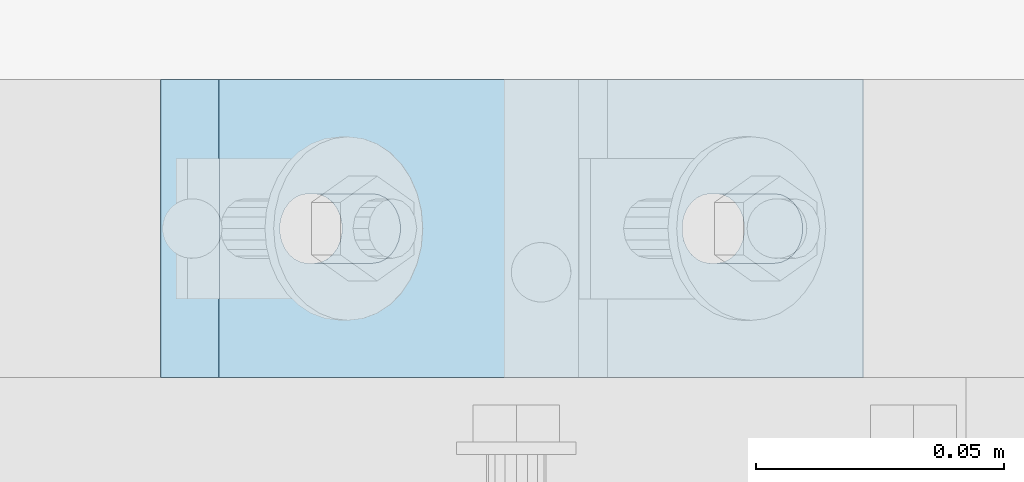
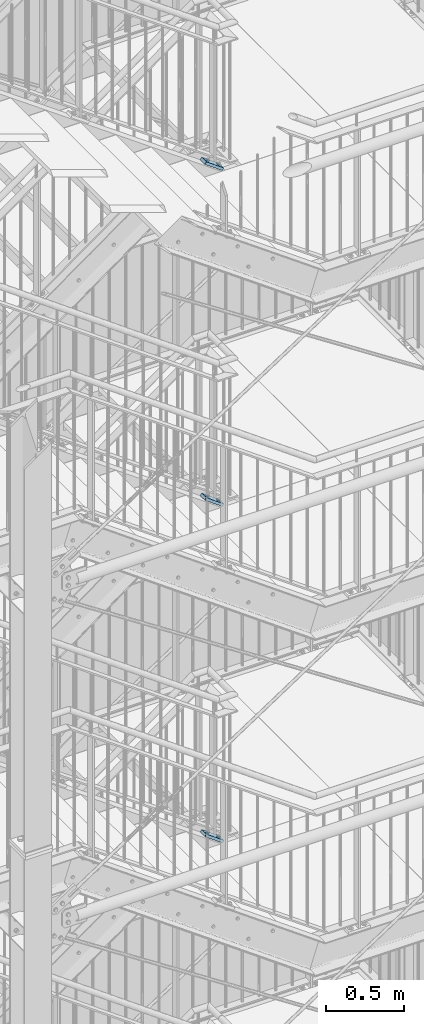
# One storey, part 179 of 831: 3 plates, 6 openings.
"""IFC2X3 building model written with IfcOpenShell, lengths in millimetres."""

import ifcopenshell
import ifcopenshell.guid

model = None  # the IFC model being written
_history = None  # IfcOwnerHistory: only IFC2X3 demands one
_inside = {}  # id of a spatial element -> (the spatial element, [elements in it])
_under = {}  # id of a project, library or spatial element -> (it, [spatial elements below it])
_declared = {}  # id of a project -> (the project, [libraries it declares])
_typed = {}  # id of a type object -> (the type object, [elements of that type])
_made_of = {}  # id of a material, layer set ... -> (it, [elements and type objects made of it])


def new_model(schema):
    """Start an empty IFC model of exactly this schema.

    Asked for "IFC4X3", IfcOpenShell would pick the latest addendum, in which some entities
    have other attributes; the version numbers below select the first issue.
    IFC2X3 requires an IfcOwnerHistory on every rooted entity: one is made here for all.
    """
    global model, _history
    if schema == "IFC4X3":
        model = ifcopenshell.file(schema_version=(4, 3, 0, 0))
    else:
        model = ifcopenshell.file(schema=schema)
    _inside.clear()
    _under.clear()
    _declared.clear()
    _typed.clear()
    _made_of.clear()
    _history = None
    if model.schema == "IFC2X3":
        org = make("IfcOrganization", Name="unknown")
        user = make(
            "IfcPersonAndOrganization",
            ThePerson=make("IfcPerson", FamilyName="unknown"),
            TheOrganization=org,
        )
        app = make(
            "IfcApplication",
            ApplicationDeveloper=org,
            Version="unknown",
            ApplicationFullName="unknown",
            ApplicationIdentifier="unknown",
        )
        _history = make(
            "IfcOwnerHistory",
            OwningUser=user,
            OwningApplication=app,
            ChangeAction="ADDED",
            CreationDate=0,
        )
    return model


def make(cls, **values):
    """One entity of the class cls with the attributes given. An attribute that is None is left unset."""
    return model.create_entity(
        cls, **{name: value for name, value in values.items() if value is not None}
    )


def entity(cls, *values):
    """Any entity or typed value of the class cls, its attributes in the order of the schema. None: left unset."""
    e = model.create_entity(cls)
    for i, value in enumerate(values):
        if value is not None:
            e[i] = value
    return e


def rooted(cls, **values):
    """An entity with a GlobalId (a new one), such as an element, a storey or a relation."""
    return make(cls, GlobalId=ifcopenshell.guid.new(), OwnerHistory=_history, **values)


def si_unit(unit_type, name, prefix=None):
    """IfcSIUnit, for example si_unit("LENGTHUNIT", "METRE", prefix="MILLI")."""
    return make("IfcSIUnit", UnitType=unit_type, Prefix=prefix, Name=name)


def converted_unit(unit_type, name, factor, base, dimensions=None, offset=None):
    """IfcConversionBasedUnit, such as the inch: factor (a typed value) times the base unit."""
    return make(
        "IfcConversionBasedUnit"
        if offset is None
        else "IfcConversionBasedUnitWithOffset",
        ConversionOffset=offset,
        Dimensions=None
        if dimensions is None
        else entity("IfcDimensionalExponents", *dimensions),
        UnitType=unit_type,
        Name=name,
        ConversionFactor=make(
            "IfcMeasureWithUnit", ValueComponent=factor, UnitComponent=base
        ),
    )


def assignment(units):
    """IfcUnitAssignment: the units of a project."""
    return None if units is None else make("IfcUnitAssignment", Units=units)


def point(xyz):
    """IfcCartesianPoint."""
    return None if xyz is None else make("IfcCartesianPoint", Coordinates=xyz)


def direction(xyz):
    """IfcDirection."""
    return None if xyz is None else make("IfcDirection", DirectionRatios=xyz)


def frame(location, z_axis=None, x_axis=None):
    """IfcAxis2Placement3D, a coordinate frame: its origin and axes. An axis left out is left unset."""
    return make(
        "IfcAxis2Placement3D",
        Location=point(location),
        Axis=direction(z_axis),
        RefDirection=direction(x_axis),
    )


def frame_2d(location, x_axis=None):
    """IfcAxis2Placement2D, a coordinate frame in the plane: its origin and x axis."""
    return make(
        "IfcAxis2Placement2D", Location=point(location), RefDirection=direction(x_axis)
    )


def origin():
    """The frame at (0, 0, 0) with its axes left unset."""
    return frame((0.0, 0.0, 0.0))


def origin_with_axes():
    """The frame at (0, 0, 0) with the z axis (0, 0, 1) and the x axis (1, 0, 0) written out."""
    return frame((0.0, 0.0, 0.0), z_axis=(0.0, 0.0, 1.0), x_axis=(1.0, 0.0, 0.0))


def place(relative_to, where):
    """IfcLocalPlacement: puts the frame where relative to a parent placement (None: the world)."""
    return make(
        "IfcLocalPlacement", PlacementRelTo=relative_to, RelativePlacement=where
    )


def context(
    kind, dimensions, precision=None, world=None, true_north=None, identifier=None
):
    """IfcGeometricRepresentationContext, for example the 3D "Model" context."""
    return make(
        "IfcGeometricRepresentationContext",
        ContextIdentifier=identifier,
        ContextType=kind,
        CoordinateSpaceDimension=dimensions,
        Precision=precision,
        WorldCoordinateSystem=world,
        TrueNorth=true_north,
    )


def project(units=None, contexts=None):
    """IfcProject with its units and contexts."""
    return rooted(
        "IfcProject",
        Name="project",
        RepresentationContexts=contexts,
        UnitsInContext=assignment(units),
    )


def spatial(cls, under=None, at=None, **own):
    """A site, building, storey or space (cls), placed at a placement, below another one or the project."""
    s = rooted(cls, ObjectPlacement=at, **own)
    if under is not None:
        _under.setdefault(under.id(), (under, []))[1].append(s)
    return s


def polyline(points):
    """IfcPolyline through the points."""
    return make("IfcPolyline", Points=[point(p) for p in points])


def circle_curve(where, radius):
    """IfcCircle in the frame where."""
    return make("IfcCircle", Position=where, Radius=radius)


def line_curve(start, along, magnitude):
    """IfcLine from a point along a vector."""
    return make(
        "IfcLine",
        Pnt=point(start),
        Dir=make("IfcVector", Orientation=direction(along), Magnitude=magnitude),
    )


def trimmed(basis, trim1, trim2, sense, master):
    """IfcTrimmedCurve: the piece of a basis curve between two trims."""
    return make(
        "IfcTrimmedCurve",
        BasisCurve=basis,
        Trim1=trim1,
        Trim2=trim2,
        SenseAgreement=sense,
        MasterRepresentation=master,
    )


def segment(curve, same_sense, transition):
    """IfcCompositeCurveSegment."""
    return make(
        "IfcCompositeCurveSegment",
        Transition=transition,
        SameSense=same_sense,
        ParentCurve=curve,
    )


def composite_curve(segments, self_intersect=None):
    """IfcCompositeCurve: segments joined end to end."""
    return make("IfcCompositeCurve", Segments=segments, SelfIntersect=self_intersect)


def outline(outer, holes=None, kind="AREA"):
    """IfcArbitraryClosedProfileDef: a profile drawn as a closed curve; with holes, ...WithVoids."""
    if holes is None:
        return make("IfcArbitraryClosedProfileDef", ProfileType=kind, OuterCurve=outer)
    return make(
        "IfcArbitraryProfileDefWithVoids",
        ProfileType=kind,
        OuterCurve=outer,
        InnerCurves=holes,
    )


def extrude(swept, where, along, depth):
    """IfcExtrudedAreaSolid: the profile swept, set in the frame where, extruded along a direction by depth."""
    return make(
        "IfcExtrudedAreaSolid",
        SweptArea=swept,
        Position=where,
        ExtrudedDirection=direction(along),
        Depth=depth,
    )


def shape(context_of_items, identifier, shape_type, items):
    """IfcShapeRepresentation: the items that make up one representation, for example the "Body"."""
    return make(
        "IfcShapeRepresentation",
        ContextOfItems=context_of_items,
        RepresentationIdentifier=identifier,
        RepresentationType=shape_type,
        Items=items,
    )


def material(Name=None, Category=None):
    """IfcMaterial."""
    return make("IfcMaterial", Name=Name, Category=Category)


def layer(
    of_material, thickness, ventilated=None, Name=None, Category=None, Priority=None
):
    """IfcMaterialLayer: one layer of a wall or slab, of a material (None: an air gap)."""
    return make(
        "IfcMaterialLayer",
        Material=of_material,
        LayerThickness=thickness,
        IsVentilated=ventilated,
        Name=Name,
        Category=Category,
        Priority=Priority,
    )


def layer_set(layers, Name=None):
    """IfcMaterialLayerSet."""
    return make("IfcMaterialLayerSet", MaterialLayers=layers, LayerSetName=Name)


def made_of(thing, what):
    """Note that an element or type object is made of a material, layer set ...; save() writes the relation."""
    if what is not None:
        _made_of.setdefault(what.id(), (what, []))[1].append(thing)
    return thing


def element(
    cls,
    number,
    at=None,
    inside=None,
    cuts=None,
    type_object=None,
    material=None,
    context=None,
    identifier="Body",
    shape_type=None,
    held_by="IfcProductDefinitionShape",
    body=None,
    shapes=None,
    **own,
):
    """One element of the class cls, such as IfcWall. Its Tag is "e" and its number.

    at: its placement. inside: the storey or other place that contains it. cuts: it is an
    opening in that element (IfcRelVoidsElement). A single representation is given by context,
    identifier, shape_type and body (its items); several are given by shapes. held_by: the class
    of the entity that holds the representations. save() writes the other relations.
    """
    e = rooted(cls, Tag="e%d" % number, ObjectPlacement=at, **own)
    if body is not None:
        shapes = [shape(context, identifier, shape_type, body)]
    if shapes is not None:
        e.Representation = make(held_by, Representations=shapes)
    if inside is not None:
        _inside.setdefault(inside.id(), (inside, []))[1].append(e)
    if cuts is not None:
        rooted(
            "IfcRelVoidsElement", RelatingBuildingElement=cuts, RelatedOpeningElement=e
        )
    if type_object is not None:
        _typed.setdefault(type_object.id(), (type_object, []))[1].append(e)
    return made_of(e, material)


def aggregate(whole, parts):
    """IfcRelAggregates: a whole, such as a stair, and the parts it consists of."""
    return rooted("IfcRelAggregates", RelatingObject=whole, RelatedObjects=parts)


def save(model, path):
    """Write the relations noted so far, then the file.

    IfcRelAggregates (storeys below a building ...), IfcRelContainedInSpatialStructure (elements
    in a storey), IfcRelDefinesByType, IfcRelAssociatesMaterial and IfcRelDeclares: one each for
    every whole, place, type object, material and project.
    """
    for whole, parts in _under.values():
        aggregate(whole, parts)
    for where, things in _inside.values():
        rooted(
            "IfcRelContainedInSpatialStructure",
            RelatedElements=things,
            RelatingStructure=where,
        )
    for kind, things in _typed.values():
        rooted("IfcRelDefinesByType", RelatedObjects=things, RelatingType=kind)
    for what, things in _made_of.values():
        rooted("IfcRelAssociatesMaterial", RelatedObjects=things, RelatingMaterial=what)
    for by, libraries in _declared.values():
        rooted("IfcRelDeclares", RelatingContext=by, RelatedDefinitions=libraries)
    model.write(path)


model = new_model("IFC2X3")

# Units and contexts
model_context = context("Model", 3, precision=1e-09, world=origin_with_axes())
ifc_project = project(units=[si_unit("LENGTHUNIT", "METRE", prefix="MILLI"), si_unit("AREAUNIT", "SQUARE_METRE"), si_unit("VOLUMEUNIT", "CUBIC_METRE"), converted_unit("PLANEANGLEUNIT", "DEGREE", entity("IfcPlaneAngleMeasure", 0.01745329), si_unit("PLANEANGLEUNIT", "RADIAN"), dimensions=[0, 0, 0, 0, 0, 0, 0])], contexts=[model_context])

# Site, building, storey
site_placement = place(None, origin_with_axes())
site = spatial("IfcSite", under=ifc_project, at=site_placement, Name="Site", CompositionType="ELEMENT")
building_placement = place(site_placement, origin_with_axes())
building = spatial("IfcBuilding", under=site, at=building_placement, Name="Struktur 1", CompositionType="ELEMENT")
storey_placement = place(building_placement, origin_with_axes())
storey = spatial("IfcBuildingStorey", under=building, at=storey_placement, Name="Default Storey", CompositionType="ELEMENT", Elevation=0.0)

# Plate, openings
ifc_material = material(Name="S235JR")
ifc_layer = layer(ifc_material, 20.0)
ifc_layer_set = layer_set([ifc_layer], Name="S235JR")
plate_1_placement = place(None, frame((6950.146766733, 5761.736971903, 11382.40949299), z_axis=(0.585213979, 0.0, 0.810878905), x_axis=(0.810878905, 0.0, -0.585213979)))
plate_1 = element("IfcPlate", 1, at=plate_1_placement, inside=storey, material=ifc_layer_set, Name="Plate#500", ObjectType="Plate#500", context=model_context, shape_type="SweptSolid", body=[
    extrude(outline(polyline([(0.0, 0.0), (160.0, 0.0), (160.0, 60.0), (0.0, 60.0), (0.0, 0.0)])), origin_with_axes(), (0.0, 0.0, 1.0), 20.0),
])
opening_1_placement = place(plate_1_placement, frame((38.0, 37.001, 20.5), z_axis=(0.0, 0.0, 1.0), x_axis=(-1.0, 0.0, 0.0)))
element("IfcOpeningElement", 2, at=opening_1_placement, cuts=plate_1, ObjectType="Opening", context=model_context, shape_type="SweptSolid", body=[
    extrude(outline(composite_curve([segment(trimmed(line_curve((0.0, 0.0), (1.0, 0.0), 16.0), [point((0.0, 0.0))], [point((16.0, 0.0))], True, "CARTESIAN"), True, "CONTINUOUS"), segment(trimmed(circle_curve(frame_2d((16.0, 7.001), x_axis=(1.0, 0.0)), 7.001), [point((16.0, 0.0))], [point((16.0, 14.002))], True, "CARTESIAN"), True, "CONTINUOUS"), segment(trimmed(line_curve((16.0, 14.002), (-1.0, 0.0), 16.0), [point((16.0, 14.002))], [point((0.0, 14.002))], True, "CARTESIAN"), True, "CONTINUOUS"), segment(trimmed(circle_curve(frame_2d((0.0, 7.001), x_axis=(1.0, 0.0)), 7.001), [point((0.0, 14.002))], [point((0.0, 0.0))], True, "CARTESIAN"), True, "CONTINUOUS")], self_intersect=False)), origin(), (0.0, 0.0, -1.0), 21.0),
])
opening_2_placement = place(plate_1_placement, frame((138.0, 37.001, 20.5), z_axis=(0.0, 0.0, 1.0), x_axis=(-1.0, 0.0, 0.0)))
element("IfcOpeningElement", 3, at=opening_2_placement, cuts=plate_1, ObjectType="Opening", context=model_context, shape_type="SweptSolid", body=[
    extrude(outline(composite_curve([segment(trimmed(line_curve((0.0, 0.0), (1.0, 0.0), 16.0), [point((0.0, 0.0))], [point((16.0, 0.0))], True, "CARTESIAN"), True, "CONTINUOUS"), segment(trimmed(circle_curve(frame_2d((16.0, 7.001), x_axis=(1.0, 0.0)), 7.001), [point((16.0, 0.0))], [point((16.0, 14.002))], True, "CARTESIAN"), True, "CONTINUOUS"), segment(trimmed(line_curve((16.0, 14.002), (-1.0, 0.0), 16.0), [point((16.0, 14.002))], [point((0.0, 14.002))], True, "CARTESIAN"), True, "CONTINUOUS"), segment(trimmed(circle_curve(frame_2d((0.0, 7.001), x_axis=(1.0, 0.0)), 7.001), [point((0.0, 14.002))], [point((0.0, 0.0))], True, "CARTESIAN"), True, "CONTINUOUS")], self_intersect=False)), origin(), (0.0, 0.0, -1.0), 21.0),
])

plate_2_placement = place(None, frame((6950.218796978, 5761.736971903, 14013.591562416), z_axis=(0.586383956, 0.0, 0.810033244), x_axis=(0.810033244, 0.0, -0.586383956)))
plate_2 = element("IfcPlate", 4, at=plate_2_placement, inside=storey, material=ifc_layer_set, Name="Plate#500", ObjectType="Plate#500", context=model_context, shape_type="SweptSolid", body=[
    extrude(outline(polyline([(0.0, 0.0), (160.0, 0.0), (160.0, 60.0), (0.0, 60.0), (0.0, 0.0)])), origin_with_axes(), (0.0, 0.0, 1.0), 20.0),
])
opening_3_placement = place(plate_2_placement, frame((38.0, 37.001, 20.5), z_axis=(0.0, 0.0, 1.0), x_axis=(-1.0, 0.0, 0.0)))
element("IfcOpeningElement", 5, at=opening_3_placement, cuts=plate_2, ObjectType="Opening", context=model_context, shape_type="SweptSolid", body=[
    extrude(outline(composite_curve([segment(trimmed(line_curve((0.0, 0.0), (1.0, 0.0), 16.0), [point((0.0, 0.0))], [point((16.0, 0.0))], True, "CARTESIAN"), True, "CONTINUOUS"), segment(trimmed(circle_curve(frame_2d((16.0, 7.001), x_axis=(1.0, 0.0)), 7.001), [point((16.0, 0.0))], [point((16.0, 14.002))], True, "CARTESIAN"), True, "CONTINUOUS"), segment(trimmed(line_curve((16.0, 14.002), (-1.0, 0.0), 16.0), [point((16.0, 14.002))], [point((0.0, 14.002))], True, "CARTESIAN"), True, "CONTINUOUS"), segment(trimmed(circle_curve(frame_2d((0.0, 7.001), x_axis=(1.0, 0.0)), 7.001), [point((0.0, 14.002))], [point((0.0, 0.0))], True, "CARTESIAN"), True, "CONTINUOUS")], self_intersect=False)), origin(), (0.0, 0.0, -1.0), 21.0),
])
opening_4_placement = place(plate_2_placement, frame((138.0, 37.001, 20.5), z_axis=(0.0, 0.0, 1.0), x_axis=(-1.0, 0.0, 0.0)))
element("IfcOpeningElement", 6, at=opening_4_placement, cuts=plate_2, ObjectType="Opening", context=model_context, shape_type="SweptSolid", body=[
    extrude(outline(composite_curve([segment(trimmed(line_curve((0.0, 0.0), (1.0, 0.0), 16.0), [point((0.0, 0.0))], [point((16.0, 0.0))], True, "CARTESIAN"), True, "CONTINUOUS"), segment(trimmed(circle_curve(frame_2d((16.0, 7.001), x_axis=(1.0, 0.0)), 7.001), [point((16.0, 0.0))], [point((16.0, 14.002))], True, "CARTESIAN"), True, "CONTINUOUS"), segment(trimmed(line_curve((16.0, 14.002), (-1.0, 0.0), 16.0), [point((16.0, 14.002))], [point((0.0, 14.002))], True, "CARTESIAN"), True, "CONTINUOUS"), segment(trimmed(circle_curve(frame_2d((0.0, 7.001), x_axis=(1.0, 0.0)), 7.001), [point((0.0, 14.002))], [point((0.0, 0.0))], True, "CARTESIAN"), True, "CONTINUOUS")], self_intersect=False)), origin(), (0.0, 0.0, -1.0), 21.0),
])

plate_3_placement = place(None, frame((6950.083735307, 5761.736971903, 16640.749925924), z_axis=(0.584187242, 0.0, 0.811618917), x_axis=(0.811618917, 0.0, -0.584187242)))
plate_3 = element("IfcPlate", 7, at=plate_3_placement, inside=storey, material=ifc_layer_set, Name="Plate#500", ObjectType="Plate#500", context=model_context, shape_type="SweptSolid", body=[
    extrude(outline(polyline([(0.0, 0.0), (160.0, 0.0), (160.0, 60.0), (0.0, 60.0), (0.0, 0.0)])), origin_with_axes(), (0.0, 0.0, 1.0), 20.0),
])
opening_5_placement = place(plate_3_placement, frame((38.0, 37.001, 20.5), z_axis=(0.0, 0.0, 1.0), x_axis=(-1.0, 0.0, 0.0)))
element("IfcOpeningElement", 8, at=opening_5_placement, cuts=plate_3, ObjectType="Opening", context=model_context, shape_type="SweptSolid", body=[
    extrude(outline(composite_curve([segment(trimmed(line_curve((0.0, 0.0), (1.0, 0.0), 16.0), [point((0.0, 0.0))], [point((16.0, 0.0))], True, "CARTESIAN"), True, "CONTINUOUS"), segment(trimmed(circle_curve(frame_2d((16.0, 7.001), x_axis=(1.0, 0.0)), 7.001), [point((16.0, 0.0))], [point((16.0, 14.002))], True, "CARTESIAN"), True, "CONTINUOUS"), segment(trimmed(line_curve((16.0, 14.002), (-1.0, 0.0), 16.0), [point((16.0, 14.002))], [point((0.0, 14.002))], True, "CARTESIAN"), True, "CONTINUOUS"), segment(trimmed(circle_curve(frame_2d((0.0, 7.001), x_axis=(1.0, 0.0)), 7.001), [point((0.0, 14.002))], [point((0.0, 0.0))], True, "CARTESIAN"), True, "CONTINUOUS")], self_intersect=False)), origin(), (0.0, 0.0, -1.0), 21.0),
])
opening_6_placement = place(plate_3_placement, frame((138.0, 37.001, 20.5), z_axis=(0.0, 0.0, 1.0), x_axis=(-1.0, 0.0, 0.0)))
element("IfcOpeningElement", 9, at=opening_6_placement, cuts=plate_3, ObjectType="Opening", context=model_context, shape_type="SweptSolid", body=[
    extrude(outline(composite_curve([segment(trimmed(line_curve((0.0, 0.0), (1.0, 0.0), 16.0), [point((0.0, 0.0))], [point((16.0, 0.0))], True, "CARTESIAN"), True, "CONTINUOUS"), segment(trimmed(circle_curve(frame_2d((16.0, 7.001), x_axis=(1.0, 0.0)), 7.001), [point((16.0, 0.0))], [point((16.0, 14.002))], True, "CARTESIAN"), True, "CONTINUOUS"), segment(trimmed(line_curve((16.0, 14.002), (-1.0, 0.0), 16.0), [point((16.0, 14.002))], [point((0.0, 14.002))], True, "CARTESIAN"), True, "CONTINUOUS"), segment(trimmed(circle_curve(frame_2d((0.0, 7.001), x_axis=(1.0, 0.0)), 7.001), [point((0.0, 14.002))], [point((0.0, 0.0))], True, "CARTESIAN"), True, "CONTINUOUS")], self_intersect=False)), origin(), (0.0, 0.0, -1.0), 21.0),
])

save(model, "model.ifc")
